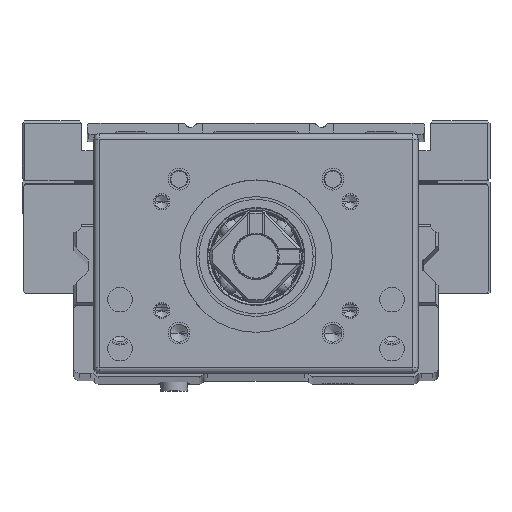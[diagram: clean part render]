
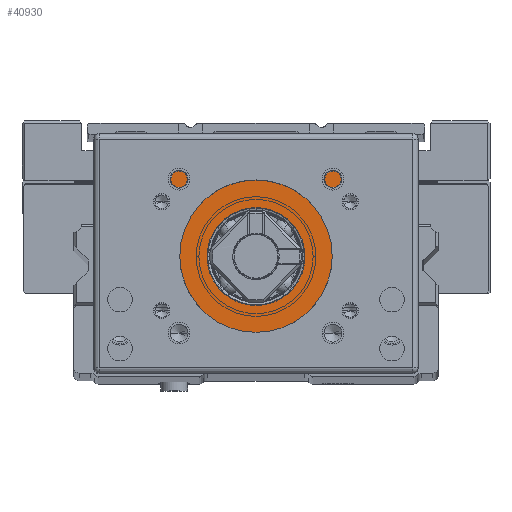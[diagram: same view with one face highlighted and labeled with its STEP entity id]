
A CAD part, top view. The second image highlights one B-rep face of the part: STEP entity #40930.
In plain terms, the highlighted planar face has unit normal (0, 0, -1).
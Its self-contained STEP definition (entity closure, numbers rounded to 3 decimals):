
#36936=DIRECTION('',(-1.,0.,0.));
#36937=VECTOR('',#36936,36.);
#36938=CARTESIAN_POINT('',(18.,43.5,18.5));
#36939=LINE('',#36938,#36937);
#37228=DIRECTION('',(1.,0.,0.));
#37229=VECTOR('',#37228,20.4);
#37230=CARTESIAN_POINT('',(-10.2,1.5,18.5));
#37231=LINE('',#37230,#37229);
#37566=DIRECTION('',(0.,-1.,0.));
#37567=VECTOR('',#37566,8.);
#37568=CARTESIAN_POINT('',(18.,43.5,18.5));
#37569=LINE('',#37568,#37567);
#37574=CARTESIAN_POINT('',(13.2,9.5,18.5));
#37575=DIRECTION('',(0.,0.,1.));
#37576=DIRECTION('',(0.,1.,0.));
#37577=AXIS2_PLACEMENT_3D('',#37574,#37575,#37576);
#37579=CARTESIAN_POINT('',(21.8,32.5,18.5));
#37580=DIRECTION('',(0.,0.,1.));
#37581=DIRECTION('',(-0.745,0.667,0.));
#37582=AXIS2_PLACEMENT_3D('',#37579,#37580,#37581);
#37584=CARTESIAN_POINT('',(18.,35.5,18.5));
#37585=CARTESIAN_POINT('',(18.256,35.319,18.5));
#37586=CARTESIAN_POINT('',(18.743,34.975,18.5));
#37587=CARTESIAN_POINT('',(19.498,34.597,18.5));
#37588=CARTESIAN_POINT('',(19.99,34.5,18.5));
#37589=CARTESIAN_POINT('',(20.236,34.5,18.5));
#37591=CARTESIAN_POINT('',(-20.236,34.5,18.5));
#37592=CARTESIAN_POINT('',(-19.992,34.5,18.5));
#37593=CARTESIAN_POINT('',(-19.501,34.596,18.5));
#37594=CARTESIAN_POINT('',(-18.747,34.973,18.5));
#37595=CARTESIAN_POINT('',(-18.257,35.318,18.5));
#37596=CARTESIAN_POINT('',(-18.,35.5,18.5));
#37598=CARTESIAN_POINT('',(-21.8,32.5,18.5));
#37599=DIRECTION('',(0.,0.,1.));
#37600=DIRECTION('',(1.,0.,0.));
#37601=AXIS2_PLACEMENT_3D('',#37598,#37599,#37600);
#37603=CARTESIAN_POINT('',(-13.2,9.5,18.5));
#37604=DIRECTION('',(0.,0.,1.));
#37605=DIRECTION('',(1.,0.,0.));
#37606=AXIS2_PLACEMENT_3D('',#37603,#37604,#37605);
#37608=CARTESIAN_POINT('',(6.,4.,18.5));
#37609=DIRECTION('',(0.,0.,1.));
#37610=DIRECTION('',(1.,0.,0.));
#37611=AXIS2_PLACEMENT_3D('',#37608,#37609,#37610);
#37613=CARTESIAN_POINT('',(6.,4.,18.5));
#37614=DIRECTION('',(0.,0.,1.));
#37615=DIRECTION('',(-1.,0.,0.));
#37616=AXIS2_PLACEMENT_3D('',#37613,#37614,#37615);
#37618=CARTESIAN_POINT('',(0.,22.,18.5));
#37619=DIRECTION('',(0.,0.,1.));
#37620=DIRECTION('',(1.,0.,0.));
#37621=AXIS2_PLACEMENT_3D('',#37618,#37619,#37620);
#37623=CARTESIAN_POINT('',(0.,22.,18.5));
#37624=DIRECTION('',(0.,0.,1.));
#37625=DIRECTION('',(-1.,0.,0.));
#37626=AXIS2_PLACEMENT_3D('',#37623,#37624,#37625);
#37628=CARTESIAN_POINT('',(-6.,4.,18.5));
#37629=DIRECTION('',(0.,0.,1.));
#37630=DIRECTION('',(1.,0.,0.));
#37631=AXIS2_PLACEMENT_3D('',#37628,#37629,#37630);
#37633=CARTESIAN_POINT('',(-6.,4.,18.5));
#37634=DIRECTION('',(0.,0.,1.));
#37635=DIRECTION('',(-1.,0.,0.));
#37636=AXIS2_PLACEMENT_3D('',#37633,#37634,#37635);
#37638=DIRECTION('',(0.,1.,0.));
#37639=VECTOR('',#37638,8.);
#37640=CARTESIAN_POINT('',(-10.2,1.5,18.5));
#37641=LINE('',#37640,#37639);
#37665=DIRECTION('',(-1.,0.,0.));
#37666=VECTOR('',#37665,5.6);
#37667=CARTESIAN_POINT('',(-13.2,12.5,18.5));
#37668=LINE('',#37667,#37666);
#37714=DIRECTION('',(0.,-1.,0.));
#37715=VECTOR('',#37714,20.);
#37716=CARTESIAN_POINT('',(-18.8,32.5,18.5));
#37717=LINE('',#37716,#37715);
#37740=DIRECTION('',(1.,0.,0.));
#37741=VECTOR('',#37740,0.672);
#37742=CARTESIAN_POINT('',(-20.236,34.5,18.5));
#37743=LINE('',#37742,#37741);
#37758=DIRECTION('',(0.,1.,0.));
#37759=VECTOR('',#37758,8.);
#37760=CARTESIAN_POINT('',(-18.,35.5,18.5));
#37761=LINE('',#37760,#37759);
#37797=DIRECTION('',(0.,-1.,0.));
#37798=VECTOR('',#37797,8.);
#37799=CARTESIAN_POINT('',(10.2,9.5,18.5));
#37800=LINE('',#37799,#37798);
#37873=DIRECTION('',(1.,0.,0.));
#37874=VECTOR('',#37873,0.672);
#37875=CARTESIAN_POINT('',(19.564,34.5,18.5));
#37876=LINE('',#37875,#37874);
#37906=DIRECTION('',(0.,1.,0.));
#37907=VECTOR('',#37906,20.);
#37908=CARTESIAN_POINT('',(18.8,12.5,18.5));
#37909=LINE('',#37908,#37907);
#37929=DIRECTION('',(-1.,0.,0.));
#37930=VECTOR('',#37929,5.6);
#37931=CARTESIAN_POINT('',(18.8,12.5,18.5));
#37932=LINE('',#37931,#37930);
#38645=CARTESIAN_POINT('',(9.,22.,18.5));
#38646=VERTEX_POINT('',#38645);
#38647=CARTESIAN_POINT('',(-9.,22.,18.5));
#38648=VERTEX_POINT('',#38647);
#38649=CARTESIAN_POINT('',(-10.2,1.5,18.5));
#38650=CARTESIAN_POINT('',(-10.2,9.5,18.5));
#38651=VERTEX_POINT('',#38649);
#38652=VERTEX_POINT('',#38650);
#38653=CARTESIAN_POINT('',(10.2,1.5,18.5));
#38654=VERTEX_POINT('',#38653);
#38655=CARTESIAN_POINT('',(10.2,9.5,18.5));
#38656=VERTEX_POINT('',#38655);
#38657=CARTESIAN_POINT('',(13.2,12.5,18.5));
#38658=VERTEX_POINT('',#38657);
#38659=CARTESIAN_POINT('',(18.8,12.5,18.5));
#38660=VERTEX_POINT('',#38659);
#38661=CARTESIAN_POINT('',(18.8,32.5,18.5));
#38662=VERTEX_POINT('',#38661);
#38663=CARTESIAN_POINT('',(19.564,34.5,18.5));
#38664=VERTEX_POINT('',#38663);
#38665=CARTESIAN_POINT('',(20.236,34.5,18.5));
#38666=VERTEX_POINT('',#38665);
#38667=VERTEX_POINT('',#37584);
#38668=CARTESIAN_POINT('',(18.,43.5,18.5));
#38669=VERTEX_POINT('',#38668);
#38670=CARTESIAN_POINT('',(-18.,43.5,18.5));
#38671=VERTEX_POINT('',#38670);
#38672=CARTESIAN_POINT('',(-18.,35.5,18.5));
#38673=VERTEX_POINT('',#38672);
#38674=VERTEX_POINT('',#37591);
#38675=CARTESIAN_POINT('',(-19.564,34.5,18.5));
#38676=VERTEX_POINT('',#38675);
#38677=CARTESIAN_POINT('',(-18.8,32.5,18.5));
#38678=VERTEX_POINT('',#38677);
#38679=CARTESIAN_POINT('',(-18.8,12.5,18.5));
#38680=VERTEX_POINT('',#38679);
#38681=CARTESIAN_POINT('',(-13.2,12.5,18.5));
#38682=VERTEX_POINT('',#38681);
#38683=CARTESIAN_POINT('',(8.25,4.,18.5));
#38684=CARTESIAN_POINT('',(3.75,4.,18.5));
#38685=VERTEX_POINT('',#38683);
#38686=VERTEX_POINT('',#38684);
#38687=CARTESIAN_POINT('',(-3.75,4.,18.5));
#38688=CARTESIAN_POINT('',(-8.25,4.,18.5));
#38689=VERTEX_POINT('',#38687);
#38690=VERTEX_POINT('',#38688);
#40872=CARTESIAN_POINT('',(0.,22.5,18.5));
#40873=DIRECTION('',(0.,0.,1.));
#40874=DIRECTION('',(0.,-1.,0.));
#40875=AXIS2_PLACEMENT_3D('',#40872,#40873,#40874);
#40876=PLANE('',#40875);
#40878=ORIENTED_EDGE('',*,*,#40877,.F.);
#40879=ORIENTED_EDGE('',*,*,#40348,.T.);
#40881=ORIENTED_EDGE('',*,*,#40880,.F.);
#40883=ORIENTED_EDGE('',*,*,#40882,.F.);
#40885=ORIENTED_EDGE('',*,*,#40884,.F.);
#40887=ORIENTED_EDGE('',*,*,#40886,.T.);
#40889=ORIENTED_EDGE('',*,*,#40888,.F.);
#40891=ORIENTED_EDGE('',*,*,#40890,.T.);
#40893=ORIENTED_EDGE('',*,*,#40892,.F.);
#40894=ORIENTED_EDGE('',*,*,#40864,.F.);
#40895=ORIENTED_EDGE('',*,*,#39910,.T.);
#40897=ORIENTED_EDGE('',*,*,#40896,.F.);
#40899=ORIENTED_EDGE('',*,*,#40898,.F.);
#40901=ORIENTED_EDGE('',*,*,#40900,.T.);
#40903=ORIENTED_EDGE('',*,*,#40902,.F.);
#40905=ORIENTED_EDGE('',*,*,#40904,.T.);
#40907=ORIENTED_EDGE('',*,*,#40906,.F.);
#40909=ORIENTED_EDGE('',*,*,#40908,.F.);
#40910=EDGE_LOOP('',(#40878,#40879,#40881,#40883,#40885,#40887,#40889,#40891,
#40893,#40894,#40895,#40897,#40899,#40901,#40903,#40905,#40907,#40909));
#40911=FACE_OUTER_BOUND('',#40910,.F.);
#40913=ORIENTED_EDGE('',*,*,#40912,.F.);
#40915=ORIENTED_EDGE('',*,*,#40914,.F.);
#40916=EDGE_LOOP('',(#40913,#40915));
#40917=FACE_BOUND('',#40916,.F.);
#40919=ORIENTED_EDGE('',*,*,#40918,.F.);
#40921=ORIENTED_EDGE('',*,*,#40920,.F.);
#40922=EDGE_LOOP('',(#40919,#40921));
#40923=FACE_BOUND('',#40922,.F.);
#40925=ORIENTED_EDGE('',*,*,#40924,.F.);
#40927=ORIENTED_EDGE('',*,*,#40926,.F.);
#40928=EDGE_LOOP('',(#40925,#40927));
#40929=FACE_BOUND('',#40928,.F.);
#37578=CIRCLE('',#37577,3.);
#37583=CIRCLE('',#37582,3.);
#37590=B_SPLINE_CURVE_WITH_KNOTS('',3,(#37584,#37585,#37586,#37587,#37588,
#37589),.UNSPECIFIED.,.F.,.F.,(4,1,1,4),(0.,0.333,
0.667,1.),.UNSPECIFIED.);
#37597=B_SPLINE_CURVE_WITH_KNOTS('',3,(#37591,#37592,#37593,#37594,#37595,
#37596),.UNSPECIFIED.,.F.,.F.,(4,1,1,4),(0.,0.333,
0.667,1.),.UNSPECIFIED.);
#37602=CIRCLE('',#37601,3.);
#37607=CIRCLE('',#37606,3.);
#37612=CIRCLE('',#37611,2.25);
#37617=CIRCLE('',#37616,2.25);
#37622=CIRCLE('',#37621,9.);
#37627=CIRCLE('',#37626,9.);
#37632=CIRCLE('',#37631,2.25);
#37637=CIRCLE('',#37636,2.25);
#39910=EDGE_CURVE('',#38669,#38671,#36939,.T.);
#40348=EDGE_CURVE('',#38651,#38654,#37231,.T.);
#40864=EDGE_CURVE('',#38669,#38667,#37569,.T.);
#40877=EDGE_CURVE('',#38651,#38652,#37641,.T.);
#40880=EDGE_CURVE('',#38656,#38654,#37800,.T.);
#40882=EDGE_CURVE('',#38658,#38656,#37578,.T.);
#40884=EDGE_CURVE('',#38660,#38658,#37932,.T.);
#40886=EDGE_CURVE('',#38660,#38662,#37909,.T.);
#40888=EDGE_CURVE('',#38664,#38662,#37583,.T.);
#40890=EDGE_CURVE('',#38664,#38666,#37876,.T.);
#40892=EDGE_CURVE('',#38667,#38666,#37590,.T.);
#40896=EDGE_CURVE('',#38673,#38671,#37761,.T.);
#40898=EDGE_CURVE('',#38674,#38673,#37597,.T.);
#40900=EDGE_CURVE('',#38674,#38676,#37743,.T.);
#40902=EDGE_CURVE('',#38678,#38676,#37602,.T.);
#40904=EDGE_CURVE('',#38678,#38680,#37717,.T.);
#40906=EDGE_CURVE('',#38682,#38680,#37668,.T.);
#40908=EDGE_CURVE('',#38652,#38682,#37607,.T.);
#40912=EDGE_CURVE('',#38685,#38686,#37612,.T.);
#40914=EDGE_CURVE('',#38686,#38685,#37617,.T.);
#40918=EDGE_CURVE('',#38646,#38648,#37622,.T.);
#40920=EDGE_CURVE('',#38648,#38646,#37627,.T.);
#40924=EDGE_CURVE('',#38689,#38690,#37632,.T.);
#40926=EDGE_CURVE('',#38690,#38689,#37637,.T.);
#40930=ADVANCED_FACE('',(#40911,#40917,#40923,#40929),#40876,.F.);
